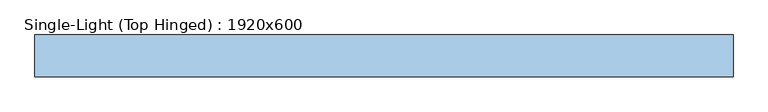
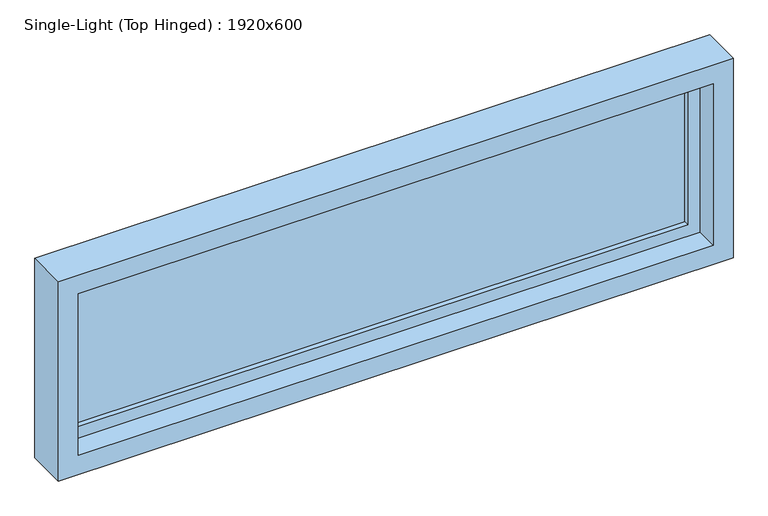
"""IFC4 building model written with IfcOpenShell, lengths in millimetres: window geometry, Single-Light (Top Hinged) : 1920x600."""

from ifc_helpers import new_model, si_unit, frame, origin, place, context, project, spatial, polyline, outline, extrude, faceted_brep, source, transform, mapped, element, save


def single_light_top_hinged_1920x600_dd11e4f9(model_context):
    return source(origin(), model_context, "Body", "SolidModel", [
        extrude(outline(polyline([(1358.0, -918.0), (842.0, -918.0), (842.0, 918.0), (1358.0, 918.0), (1358.0, -918.0)]), holes=[polyline([(1308.0, 868.0), (892.0, 868.0), (892.0, -868.0), (1308.0, -868.0), (1308.0, 868.0)])]), frame((0.0, 140.0, 0.0), z_axis=(0.0, 1.0, 0.0), x_axis=(0.0, 0.0, 1.0)), (0.0, 0.0, 1.0), 50.0),
        faceted_brep([(-960.0, 75.0, 800.0), (-960.0, 190.0, 800.0), (960.0, 190.0, 800.0), (960.0, 75.0, 800.0), (960.0, 190.0, 1400.0), (960.0, 75.0, 1400.0), (-960.0, 190.0, 1400.0), (918.0, 190.0, 1358.0), (-918.0, 190.0, 1358.0), (-918.0, 190.0, 842.0), (918.0, 190.0, 842.0), (-960.0, 75.0, 1400.0), (903.0, 75.0, 857.0), (-903.0, 75.0, 857.0), (-903.0, 75.0, 1343.0), (903.0, 75.0, 1343.0), (-903.0, 140.0, 857.0), (903.0, 140.0, 857.0), (903.0, 140.0, 1343.0), (918.0, 140.0, 842.0), (-918.0, 140.0, 842.0), (-918.0, 140.0, 1358.0), (918.0, 140.0, 1358.0), (-903.0, 140.0, 1343.0)], [[[0, 1, 2, 3]], [[3, 2, 4, 5]], [[2, 1, 6, 4], [7, 8, 9, 10]], [[5, 11, 0, 3], [12, 13, 14, 15]], [[16, 13, 12, 17]], [[17, 12, 15, 18]], [[19, 20, 21, 22], [18, 23, 16, 17]], [[9, 20, 19, 10]], [[10, 19, 22, 7]], [[11, 6, 1, 0]], [[23, 14, 13, 16]], [[8, 21, 20, 9]], [[5, 4, 6, 11]], [[18, 15, 14, 23]], [[7, 22, 21, 8]]]),
        extrude(outline(polyline([(-868.0, 176.0), (868.0, 176.0), (868.0, 154.0), (-868.0, 154.0), (-868.0, 176.0)])), frame((0.0, 0.0, 892.0), z_axis=(0.0, 0.0, 1.0), x_axis=(1.0, 0.0, 0.0)), (0.0, 0.0, 1.0), 416.0),
    ])


if __name__ == "__main__":
    model = new_model("IFC4")
    model_context = context("Model", 3, world=origin())
    ifc_project = project(units=[si_unit("LENGTHUNIT", "METRE", prefix="MILLI")], contexts=[model_context])
    site = spatial("IfcSite", under=ifc_project)
    building = spatial("IfcBuilding", under=site)
    placement = place(None, origin())
    single_light_top_hinged_1920x600_shape = single_light_top_hinged_1920x600_dd11e4f9(model_context)
    element("IfcWindow", 1, ObjectType="Single-Light (Top Hinged) : 1920x600", at=placement, inside=building, context=model_context, shape_type="MappedRepresentation", body=[
        mapped(single_light_top_hinged_1920x600_shape, transform((0.0, 0.0, 0.0), x_axis=(1.0, 0.0, 0.0), y_axis=(0.0, 1.0, 0.0), z_axis=(0.0, 0.0, 1.0))),
    ])
    save(model, "model.ifc")
